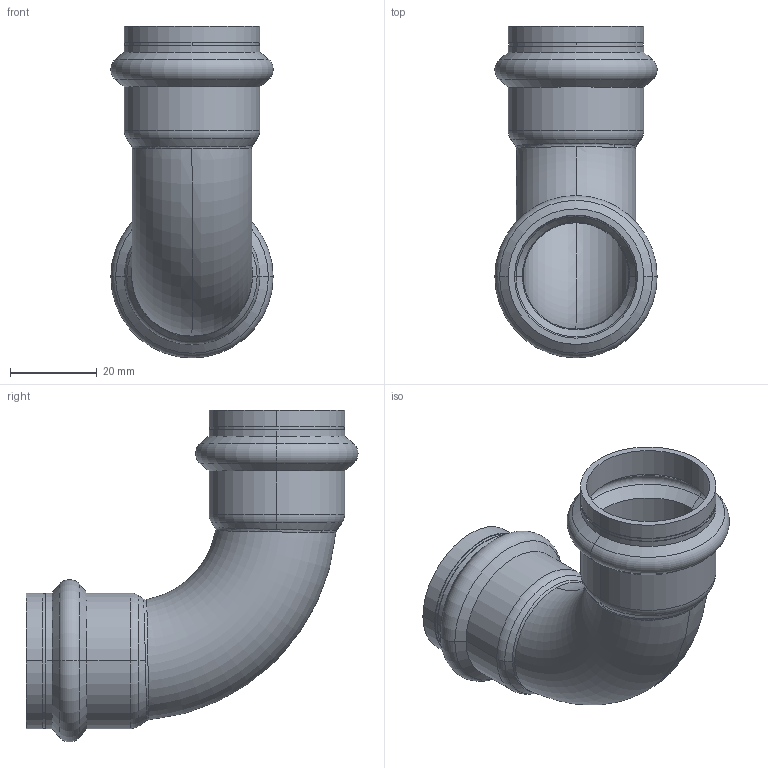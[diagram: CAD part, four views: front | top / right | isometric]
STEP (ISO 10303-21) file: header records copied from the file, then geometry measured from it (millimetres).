
FILE_DESCRIPTION (( 'STEP AP203' ), '1' );
FILE_NAME ('SP5002 Ø28.STEP', '2017-04-24T08:03:22', ( '' ), ( '' ), 'SwSTEP 2.0', 'SolidWorks 2016', '' );
FILE_SCHEMA (( 'CONFIG_CONTROL_DESIGN' ));
Length unit declared in the file: millimetre
Products named in the file (1): SP5002 ﾘ28
Bounding box: 37.34 x 76.37 x 76.37 mm (x, y, z)
Volume: 14529.9 mm3; surface area: 19620.3 mm2
Topology: 1 solids, 1 shells, 82 faces, 180 edges, 104 vertices
Faces by surface type: cone 24, cylinder 24, torus 20, bspline 8, plane 6
Entity records: 4216 total; most frequent: CARTESIAN_POINT 2358, DIRECTION 398, ORIENTED_EDGE 360, EDGE_CURVE 180, AXIS2_PLACEMENT_3D 175, VERTEX_POINT 104, CIRCLE 100, EDGE_LOOP 88
